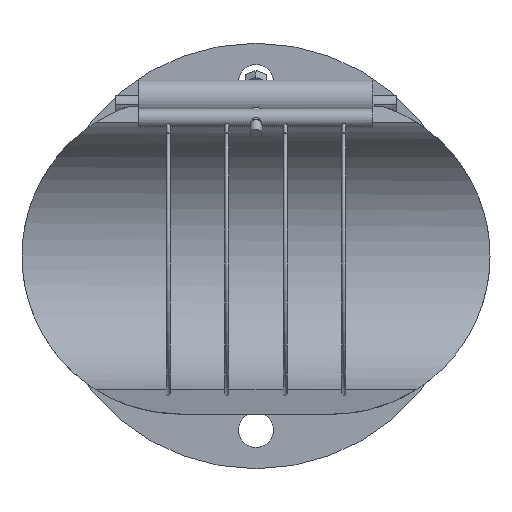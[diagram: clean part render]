
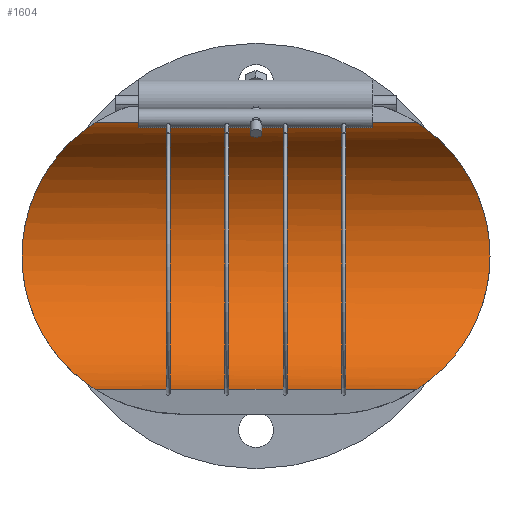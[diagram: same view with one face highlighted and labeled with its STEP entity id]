
A CAD part, front view. The second image highlights one B-rep face of the part: STEP entity #1604.
In plain terms, the highlighted cylindrical face has radius 70 mm (diameter 140 mm), a partial arc.
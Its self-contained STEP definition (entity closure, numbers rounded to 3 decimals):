
#151=FACE_OUTER_BOUND('',#245,.T.);
#245=EDGE_LOOP('',(#1347,#1348,#1349,#1350,#1351,#1352,#1353,#1354,#1355,
#1356));
#332=B_SPLINE_CURVE_WITH_KNOTS('',3,(#3339,#3340,#3341,#3342,#3343,#3344,
#3345,#3346,#3347,#3348,#3349,#3350,#3351,#3352,#3353,#3354,#3355,#3356),
 .UNSPECIFIED.,.F.,.F.,(4,2,2,2,2,2,2,2,4),(24.299,24.525,
26.002,27.479,28.956,30.36,31.764,
33.168,34.573),.UNSPECIFIED.);
#333=B_SPLINE_CURVE_WITH_KNOTS('',3,(#3357,#3358,#3359,#3360,#3361,#3362,
#3363,#3364,#3365,#3366,#3367,#3368,#3369,#3370,#3371,#3372,#3373,#3374),
 .UNSPECIFIED.,.F.,.F.,(4,2,2,2,2,2,2,2,4),(34.573,35.977,
37.381,38.785,40.189,41.666,43.143,
44.62,44.846),.UNSPECIFIED.);
#338=B_SPLINE_CURVE_WITH_KNOTS('',3,(#3486,#3487,#3488,#3489,#3490,#3491,
#3492,#3493,#3494,#3495,#3496,#3497,#3498,#3499,#3500,#3501,#3502,#3503),
 .UNSPECIFIED.,.F.,.F.,(4,2,2,2,2,2,2,2,4),(1.251,1.477,
2.954,4.43,5.907,7.312,8.716,
10.12,11.524),.UNSPECIFIED.);
#339=B_SPLINE_CURVE_WITH_KNOTS('',3,(#3505,#3506,#3507,#3508,#3509,#3510,
#3511,#3512,#3513,#3514,#3515,#3516,#3517,#3518,#3519,#3520,#3521,#3522),
 .UNSPECIFIED.,.F.,.F.,(4,2,2,2,2,2,2,2,4),(11.524,12.928,
14.333,15.737,17.141,18.618,20.095,
21.572,21.797),.UNSPECIFIED.);
#469=LINE('',#2636,#542);
#470=LINE('',#2639,#543);
#471=LINE('',#2642,#544);
#472=LINE('',#2644,#545);
#473=LINE('',#2645,#546);
#517=LINE('',#3564,#590);
#542=VECTOR('',#1901,10.);
#543=VECTOR('',#1904,10.);
#544=VECTOR('',#1907,10.);
#545=VECTOR('',#1910,10.);
#546=VECTOR('',#1911,10.);
#590=VECTOR('',#2163,10.);
#631=VERTEX_POINT('',#2624);
#633=VERTEX_POINT('',#2629);
#635=VERTEX_POINT('',#2633);
#636=VERTEX_POINT('',#2635);
#637=VERTEX_POINT('',#2638);
#638=VERTEX_POINT('',#2641);
#714=VERTEX_POINT('',#3336);
#715=VERTEX_POINT('',#3338);
#720=VERTEX_POINT('',#3485);
#721=VERTEX_POINT('',#3504);
#809=EDGE_CURVE('',#636,#635,#469,.T.);
#811=EDGE_CURVE('',#637,#636,#470,.T.);
#813=EDGE_CURVE('',#638,#637,#471,.T.);
#815=EDGE_CURVE('',#631,#638,#472,.T.);
#816=EDGE_CURVE('',#633,#631,#473,.T.);
#940=EDGE_CURVE('',#714,#715,#332,.T.);
#941=EDGE_CURVE('',#715,#635,#333,.T.);
#946=EDGE_CURVE('',#633,#720,#338,.T.);
#947=EDGE_CURVE('',#720,#721,#339,.T.);
#951=EDGE_CURVE('',#714,#721,#517,.T.);
#1347=ORIENTED_EDGE('',*,*,#946,.F.);
#1348=ORIENTED_EDGE('',*,*,#816,.T.);
#1349=ORIENTED_EDGE('',*,*,#815,.T.);
#1350=ORIENTED_EDGE('',*,*,#813,.T.);
#1351=ORIENTED_EDGE('',*,*,#811,.T.);
#1352=ORIENTED_EDGE('',*,*,#809,.T.);
#1353=ORIENTED_EDGE('',*,*,#941,.F.);
#1354=ORIENTED_EDGE('',*,*,#940,.F.);
#1355=ORIENTED_EDGE('',*,*,#951,.T.);
#1356=ORIENTED_EDGE('',*,*,#947,.F.);
#1533=CYLINDRICAL_SURFACE('',#1776,70.);
#1604=ADVANCED_FACE('',(#151),#1533,.F.);
#1776=AXIS2_PLACEMENT_3D('',#3563,#2161,#2162);
#1901=DIRECTION('',(1.,0.,0.));
#1904=DIRECTION('',(1.,0.,0.));
#1907=DIRECTION('',(1.,0.,0.));
#1910=DIRECTION('',(1.,0.,0.));
#1911=DIRECTION('',(1.,0.,0.));
#2161=DIRECTION('center_axis',(1.,0.,0.));
#2162=DIRECTION('ref_axis',(0.,1.,0.));
#2163=DIRECTION('',(-1.,0.,0.));
#2624=CARTESIAN_POINT('',(-45.375,12.155,-68.937));
#2629=CARTESIAN_POINT('',(-83.182,12.155,-68.937));
#2633=CARTESIAN_POINT('',(83.182,12.155,-68.937));
#2635=CARTESIAN_POINT('',(45.375,12.155,-68.937));
#2636=CARTESIAN_POINT('',(0.,12.155,-68.937));
#2638=CARTESIAN_POINT('',(15.125,12.155,-68.937));
#2639=CARTESIAN_POINT('',(0.,12.155,-68.937));
#2641=CARTESIAN_POINT('',(-15.125,12.155,-68.937));
#2642=CARTESIAN_POINT('',(0.,12.155,-68.937));
#2644=CARTESIAN_POINT('',(0.,12.155,-68.937));
#2645=CARTESIAN_POINT('',(0.,12.155,-68.937));
#3336=CARTESIAN_POINT('',(83.182,12.155,68.937));
#3338=CARTESIAN_POINT('',(121.,70.,0.));
#3339=CARTESIAN_POINT('Ctrl Pts',(83.182,12.155,68.937));
#3340=CARTESIAN_POINT('Ctrl Pts',(83.378,12.865,68.811));
#3341=CARTESIAN_POINT('Ctrl Pts',(83.589,13.57,68.676));
#3342=CARTESIAN_POINT('Ctrl Pts',(85.281,18.852,67.576));
#3343=CARTESIAN_POINT('Ctrl Pts',(87.318,23.251,66.183));
#3344=CARTESIAN_POINT('Ctrl Pts',(91.885,31.629,62.613));
#3345=CARTESIAN_POINT('Ctrl Pts',(94.413,35.607,60.433));
#3346=CARTESIAN_POINT('Ctrl Pts',(99.459,43.01,55.409));
#3347=CARTESIAN_POINT('Ctrl Pts',(101.977,46.432,52.563));
#3348=CARTESIAN_POINT('Ctrl Pts',(106.527,52.412,46.583));
#3349=CARTESIAN_POINT('Ctrl Pts',(108.743,55.215,43.257));
#3350=CARTESIAN_POINT('Ctrl Pts',(112.817,60.261,35.896));
#3351=CARTESIAN_POINT('Ctrl Pts',(114.673,62.504,31.859));
#3352=CARTESIAN_POINT('Ctrl Pts',(117.745,66.177,23.287));
#3353=CARTESIAN_POINT('Ctrl Pts',(118.962,67.611,18.742));
#3354=CARTESIAN_POINT('Ctrl Pts',(120.59,69.523,9.439));
#3355=CARTESIAN_POINT('Ctrl Pts',(121.,70.,4.681));
#3356=CARTESIAN_POINT('Ctrl Pts',(121.,70.,0.));
#3357=CARTESIAN_POINT('Ctrl Pts',(121.,70.,0.));
#3358=CARTESIAN_POINT('Ctrl Pts',(121.,70.,-4.681));
#3359=CARTESIAN_POINT('Ctrl Pts',(120.59,69.523,-9.439));
#3360=CARTESIAN_POINT('Ctrl Pts',(118.962,67.611,-18.742));
#3361=CARTESIAN_POINT('Ctrl Pts',(117.745,66.177,-23.287));
#3362=CARTESIAN_POINT('Ctrl Pts',(114.673,62.504,-31.859));
#3363=CARTESIAN_POINT('Ctrl Pts',(112.817,60.261,-35.896));
#3364=CARTESIAN_POINT('Ctrl Pts',(108.743,55.215,-43.257));
#3365=CARTESIAN_POINT('Ctrl Pts',(106.527,52.412,-46.583));
#3366=CARTESIAN_POINT('Ctrl Pts',(101.977,46.432,-52.563));
#3367=CARTESIAN_POINT('Ctrl Pts',(99.459,43.01,-55.409));
#3368=CARTESIAN_POINT('Ctrl Pts',(94.413,35.607,-60.433));
#3369=CARTESIAN_POINT('Ctrl Pts',(91.885,31.629,-62.613));
#3370=CARTESIAN_POINT('Ctrl Pts',(87.318,23.251,-66.183));
#3371=CARTESIAN_POINT('Ctrl Pts',(85.281,18.852,-67.576));
#3372=CARTESIAN_POINT('Ctrl Pts',(83.589,13.57,-68.676));
#3373=CARTESIAN_POINT('Ctrl Pts',(83.378,12.865,-68.811));
#3374=CARTESIAN_POINT('Ctrl Pts',(83.182,12.155,-68.937));
#3485=CARTESIAN_POINT('',(-121.,70.,0.));
#3486=CARTESIAN_POINT('Ctrl Pts',(-83.182,12.155,-68.937));
#3487=CARTESIAN_POINT('Ctrl Pts',(-83.378,12.865,-68.811));
#3488=CARTESIAN_POINT('Ctrl Pts',(-83.589,13.57,-68.676));
#3489=CARTESIAN_POINT('Ctrl Pts',(-85.281,18.852,-67.576));
#3490=CARTESIAN_POINT('Ctrl Pts',(-87.318,23.251,-66.183));
#3491=CARTESIAN_POINT('Ctrl Pts',(-91.885,31.629,-62.613));
#3492=CARTESIAN_POINT('Ctrl Pts',(-94.413,35.607,-60.433));
#3493=CARTESIAN_POINT('Ctrl Pts',(-99.459,43.01,-55.409));
#3494=CARTESIAN_POINT('Ctrl Pts',(-101.977,46.432,-52.563));
#3495=CARTESIAN_POINT('Ctrl Pts',(-106.527,52.412,-46.583));
#3496=CARTESIAN_POINT('Ctrl Pts',(-108.743,55.215,-43.257));
#3497=CARTESIAN_POINT('Ctrl Pts',(-112.817,60.261,-35.896));
#3498=CARTESIAN_POINT('Ctrl Pts',(-114.673,62.504,-31.859));
#3499=CARTESIAN_POINT('Ctrl Pts',(-117.745,66.177,-23.287));
#3500=CARTESIAN_POINT('Ctrl Pts',(-118.962,67.611,-18.742));
#3501=CARTESIAN_POINT('Ctrl Pts',(-120.59,69.523,-9.439));
#3502=CARTESIAN_POINT('Ctrl Pts',(-121.,70.,-4.681));
#3503=CARTESIAN_POINT('Ctrl Pts',(-121.,70.,0.));
#3504=CARTESIAN_POINT('',(-83.182,12.155,68.937));
#3505=CARTESIAN_POINT('Ctrl Pts',(-121.,70.,0.));
#3506=CARTESIAN_POINT('Ctrl Pts',(-121.,70.,4.681));
#3507=CARTESIAN_POINT('Ctrl Pts',(-120.59,69.523,9.439));
#3508=CARTESIAN_POINT('Ctrl Pts',(-118.962,67.611,18.742));
#3509=CARTESIAN_POINT('Ctrl Pts',(-117.745,66.177,23.287));
#3510=CARTESIAN_POINT('Ctrl Pts',(-114.673,62.504,31.859));
#3511=CARTESIAN_POINT('Ctrl Pts',(-112.817,60.261,35.896));
#3512=CARTESIAN_POINT('Ctrl Pts',(-108.743,55.215,43.257));
#3513=CARTESIAN_POINT('Ctrl Pts',(-106.527,52.412,46.583));
#3514=CARTESIAN_POINT('Ctrl Pts',(-101.977,46.432,52.563));
#3515=CARTESIAN_POINT('Ctrl Pts',(-99.459,43.01,55.409));
#3516=CARTESIAN_POINT('Ctrl Pts',(-94.413,35.607,60.433));
#3517=CARTESIAN_POINT('Ctrl Pts',(-91.885,31.629,62.613));
#3518=CARTESIAN_POINT('Ctrl Pts',(-87.318,23.251,66.183));
#3519=CARTESIAN_POINT('Ctrl Pts',(-85.281,18.852,67.576));
#3520=CARTESIAN_POINT('Ctrl Pts',(-83.589,13.57,68.676));
#3521=CARTESIAN_POINT('Ctrl Pts',(-83.378,12.865,68.811));
#3522=CARTESIAN_POINT('Ctrl Pts',(-83.182,12.155,68.937));
#3563=CARTESIAN_POINT('Origin',(0.,0.,0.));
#3564=CARTESIAN_POINT('',(0.,12.155,68.937));
